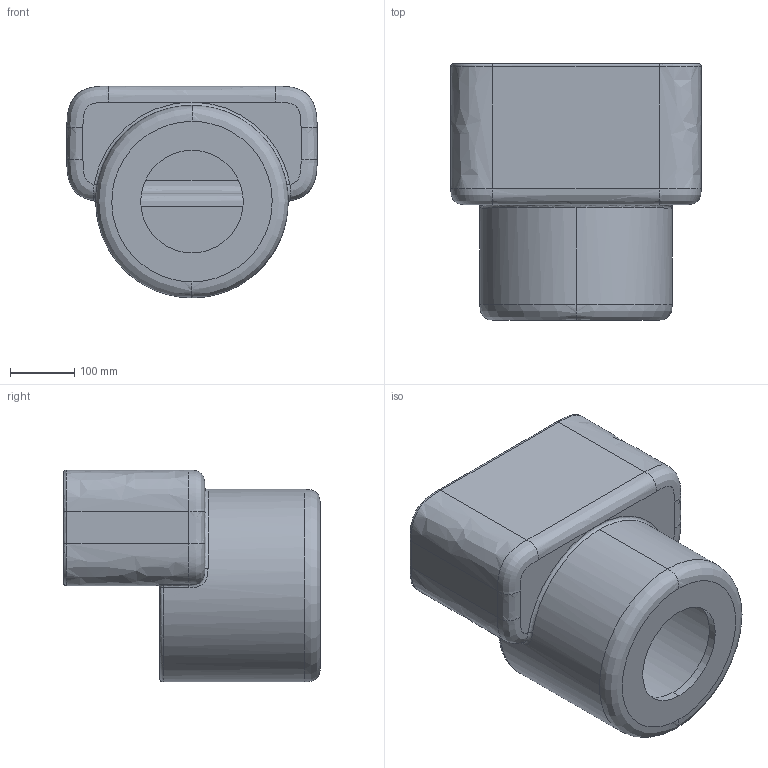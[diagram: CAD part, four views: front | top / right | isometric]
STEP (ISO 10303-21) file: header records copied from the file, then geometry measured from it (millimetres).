
FILE_DESCRIPTION (( 'STEP AP203' ), '1' );
FILE_NAME ('20230301_OFFSET_Rectangle_on_circle_export.STEP', '2023-03-02T15:11:47', ( '' ), ( '' ), 'SwSTEP 2.0', 'SolidWorks 2018', '' );
FILE_SCHEMA (( 'CONFIG_CONTROL_DESIGN' ));
Length unit declared in the file: millimetre
Products named in the file (1): 20230301_OFFSET_Rectangle_on_circle_export
Bounding box: 390 x 400 x 330 mm (x, y, z)
Volume: 7155102.8 mm3; surface area: 1070261.6 mm2
Topology: 1 solids, 1 shells, 91 faces, 205 edges, 118 vertices
Faces by surface type: bspline 67, plane 18, cylinder 6
Entity records: 14888 total; most frequent: CARTESIAN_POINT 13386, ORIENTED_EDGE 410, EDGE_CURVE 205, B_SPLINE_CURVE_WITH_KNOTS 187, VERTEX_POINT 118, EDGE_LOOP 93, FACE_OUTER_BOUND 91, ADVANCED_FACE 91
